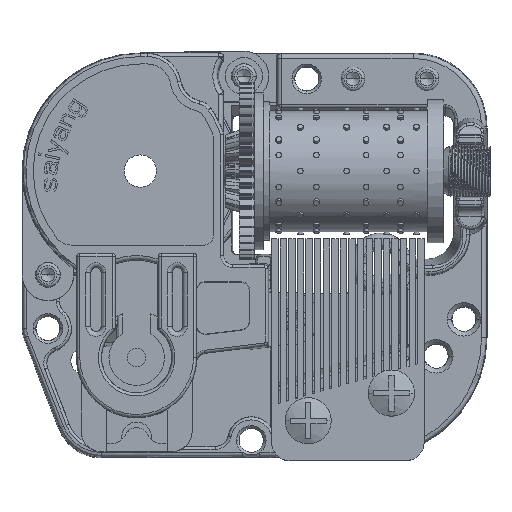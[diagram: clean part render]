
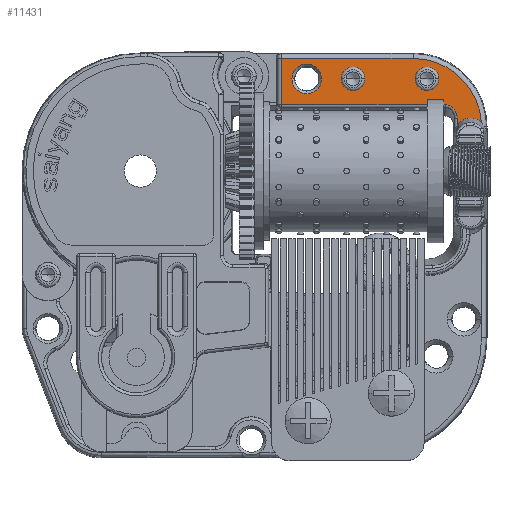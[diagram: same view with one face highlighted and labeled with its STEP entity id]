
A CAD part, top view. The second image highlights one B-rep face of the part: STEP entity #11431.
In plain terms, the highlighted planar face has unit normal (0, 0, 1).
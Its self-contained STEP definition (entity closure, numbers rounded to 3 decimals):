
#82=CARTESIAN_POINT('',(33.375,41.333,0.));
#83=DIRECTION('',(0.,0.,1.));
#84=DIRECTION('',(1.,0.,0.));
#85=AXIS2_PLACEMENT_3D('',#82,#83,#84);
#115=CARTESIAN_POINT('',(38.375,41.333,0.));
#116=DIRECTION('',(0.,0.,1.));
#117=DIRECTION('',(1.,0.,0.));
#118=AXIS2_PLACEMENT_3D('',#115,#116,#117);
#120=CARTESIAN_POINT('',(38.375,41.333,0.));
#121=DIRECTION('',(0.,0.,1.));
#122=DIRECTION('',(-1.,0.,0.));
#123=AXIS2_PLACEMENT_3D('',#120,#121,#122);
#125=CARTESIAN_POINT('',(46.375,41.333,0.));
#126=DIRECTION('',(0.,0.,1.));
#127=DIRECTION('',(1.,0.,0.));
#128=AXIS2_PLACEMENT_3D('',#125,#126,#127);
#130=CARTESIAN_POINT('',(46.375,41.333,0.));
#131=DIRECTION('',(0.,0.,1.));
#132=DIRECTION('',(-1.,0.,0.));
#133=AXIS2_PLACEMENT_3D('',#130,#131,#132);
#135=CARTESIAN_POINT('',(52.266,36.605,0.));
#136=CARTESIAN_POINT('',(52.019,36.84,0.));
#137=CARTESIAN_POINT('',(51.553,37.057,0.));
#138=CARTESIAN_POINT('',(50.884,37.114,0.));
#139=CARTESIAN_POINT('',(50.242,36.914,0.));
#140=CARTESIAN_POINT('',(49.834,36.602,0.));
#141=CARTESIAN_POINT('',(49.644,36.319,0.));
#4988=DIRECTION('',(-1.,0.,0.));
#4989=VECTOR('',#4988,17.701);
#4990=CARTESIAN_POINT('',(48.357,38.519,
0.));
#4991=LINE('',#4990,#4989);
#5025=CARTESIAN_POINT('',(30.657,38.519,
0.));
#5057=DIRECTION('',(0.,1.,0.));
#5058=VECTOR('',#5057,5.02);
#5059=CARTESIAN_POINT('',(30.657,38.519,
0.));
#5060=LINE('',#5059,#5058);
#5554=CARTESIAN_POINT('',(44.875,36.133,0.));
#5555=DIRECTION('',(0.,0.,1.));
#5556=DIRECTION('',(0.998,0.064,0.));
#5557=AXIS2_PLACEMENT_3D('',#5554,#5555,#5556);
#5585=DIRECTION('',(-1.,0.,0.));
#5586=VECTOR('',#5585,14.22);
#5587=CARTESIAN_POINT('',(44.875,43.539,0.));
#5588=LINE('',#5587,#5586);
#6079=DIRECTION('',(0.,1.,0.));
#6080=VECTOR('',#6079,0.762);
#6081=CARTESIAN_POINT('',(49.644,36.319,0.));
#6082=LINE('',#6081,#6080);
#6101=CARTESIAN_POINT('',(49.644,37.081,
0.));
#6102=CARTESIAN_POINT('',(49.644,37.221,
0.));
#6103=CARTESIAN_POINT('',(49.61,37.486,0.));
#6104=CARTESIAN_POINT('',(49.463,37.853,
0.));
#6105=CARTESIAN_POINT('',(49.244,38.146,0.));
#6106=CARTESIAN_POINT('',(48.976,38.36,
0.));
#6107=CARTESIAN_POINT('',(48.673,38.49,0.));
#6108=CARTESIAN_POINT('',(48.465,38.519,
0.));
#6109=CARTESIAN_POINT('',(48.357,38.519,
0.));
#8977=CARTESIAN_POINT('',(33.375,41.333,0.));
#8978=DIRECTION('',(0.,0.,1.));
#8979=DIRECTION('',(-1.,0.,0.));
#8980=AXIS2_PLACEMENT_3D('',#8977,#8978,#8979);
#9506=CARTESIAN_POINT('',(34.975,41.333,0.));
#9507=CARTESIAN_POINT('',(31.775,41.333,0.));
#9508=VERTEX_POINT('',#9506);
#9509=VERTEX_POINT('',#9507);
#9998=CARTESIAN_POINT('',(52.266,36.605,0.));
#9999=CARTESIAN_POINT('',(44.875,43.539,0.));
#10000=VERTEX_POINT('',#9998);
#10001=VERTEX_POINT('',#9999);
#10436=CARTESIAN_POINT('',(39.65,41.333,0.));
#10437=CARTESIAN_POINT('',(37.1,41.333,0.));
#10438=VERTEX_POINT('',#10436);
#10439=VERTEX_POINT('',#10437);
#10440=CARTESIAN_POINT('',(47.65,41.333,0.));
#10441=CARTESIAN_POINT('',(45.1,41.333,0.));
#10442=VERTEX_POINT('',#10440);
#10443=VERTEX_POINT('',#10441);
#10653=CARTESIAN_POINT('',(30.655,43.539,0.));
#10654=VERTEX_POINT('',#10653);
#10659=VERTEX_POINT('',#5025);
#10665=CARTESIAN_POINT('',(48.357,38.519,
0.));
#10666=VERTEX_POINT('',#10665);
#10668=VERTEX_POINT('',#6101);
#10671=CARTESIAN_POINT('',(49.644,36.319,0.));
#10672=VERTEX_POINT('',#10671);
#11393=CARTESIAN_POINT('',(0.,0.,0.));
#11394=DIRECTION('',(0.,0.,1.));
#11395=DIRECTION('',(1.,0.,0.));
#11396=AXIS2_PLACEMENT_3D('',#11393,#11394,#11395);
#11397=PLANE('',#11396);
#11399=ORIENTED_EDGE('',*,*,#11398,.T.);
#11401=ORIENTED_EDGE('',*,*,#11400,.T.);
#11403=ORIENTED_EDGE('',*,*,#11402,.F.);
#11405=ORIENTED_EDGE('',*,*,#11404,.F.);
#11407=ORIENTED_EDGE('',*,*,#11406,.T.);
#11409=ORIENTED_EDGE('',*,*,#11408,.T.);
#11411=ORIENTED_EDGE('',*,*,#11410,.T.);
#11412=EDGE_LOOP('',(#11399,#11401,#11403,#11405,#11407,#11409,#11411));
#11413=FACE_OUTER_BOUND('',#11412,.F.);
#11414=ORIENTED_EDGE('',*,*,#11357,.T.);
#11416=ORIENTED_EDGE('',*,*,#11415,.T.);
#11417=EDGE_LOOP('',(#11414,#11416));
#11418=FACE_BOUND('',#11417,.F.);
#11420=ORIENTED_EDGE('',*,*,#11419,.T.);
#11422=ORIENTED_EDGE('',*,*,#11421,.T.);
#11423=EDGE_LOOP('',(#11420,#11422));
#11424=FACE_BOUND('',#11423,.F.);
#11426=ORIENTED_EDGE('',*,*,#11425,.T.);
#11428=ORIENTED_EDGE('',*,*,#11427,.T.);
#11429=EDGE_LOOP('',(#11426,#11428));
#11430=FACE_BOUND('',#11429,.F.);
#11431=ADVANCED_FACE('',(#11413,#11418,#11424,#11430),#11397,.T.);
#86=CIRCLE('',#85,1.6);
#119=CIRCLE('',#118,1.275);
#124=CIRCLE('',#123,1.275);
#129=CIRCLE('',#128,1.275);
#134=CIRCLE('',#133,1.275);
#142=B_SPLINE_CURVE_WITH_KNOTS('',3,(#135,#136,#137,#138,#139,#140,#141),
.UNSPECIFIED.,.F.,.F.,(4,1,1,1,4),(0.,0.25,0.5,0.75,1.),
.UNSPECIFIED.);
#5558=CIRCLE('',#5557,7.405);
#6110=B_SPLINE_CURVE_WITH_KNOTS('',3,(#6101,#6102,#6103,#6104,#6105,#6106,#6107,
#6108,#6109),.UNSPECIFIED.,.F.,.F.,(4,1,1,1,1,1,4),(0.,0.167,
0.333,0.5,0.667,0.833,1.),
.UNSPECIFIED.);
#8981=CIRCLE('',#8980,1.6);
#11357=EDGE_CURVE('',#9508,#9509,#86,.T.);
#11398=EDGE_CURVE('',#10666,#10659,#4991,.T.);
#11400=EDGE_CURVE('',#10659,#10654,#5060,.T.);
#11402=EDGE_CURVE('',#10001,#10654,#5588,.T.);
#11404=EDGE_CURVE('',#10000,#10001,#5558,.T.);
#11406=EDGE_CURVE('',#10000,#10672,#142,.T.);
#11408=EDGE_CURVE('',#10672,#10668,#6082,.T.);
#11410=EDGE_CURVE('',#10668,#10666,#6110,.T.);
#11415=EDGE_CURVE('',#9509,#9508,#8981,.T.);
#11419=EDGE_CURVE('',#10438,#10439,#119,.T.);
#11421=EDGE_CURVE('',#10439,#10438,#124,.T.);
#11425=EDGE_CURVE('',#10442,#10443,#129,.T.);
#11427=EDGE_CURVE('',#10443,#10442,#134,.T.);
